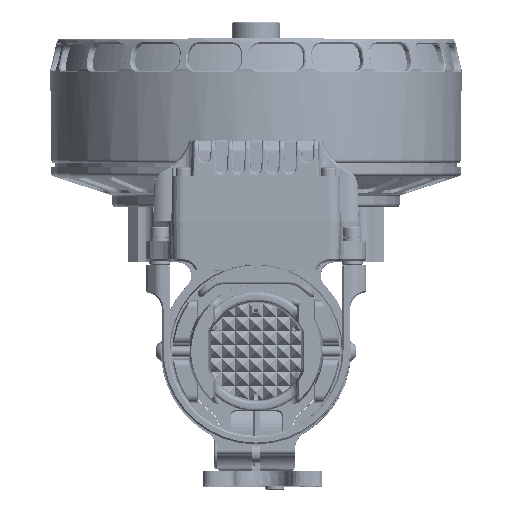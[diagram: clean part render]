
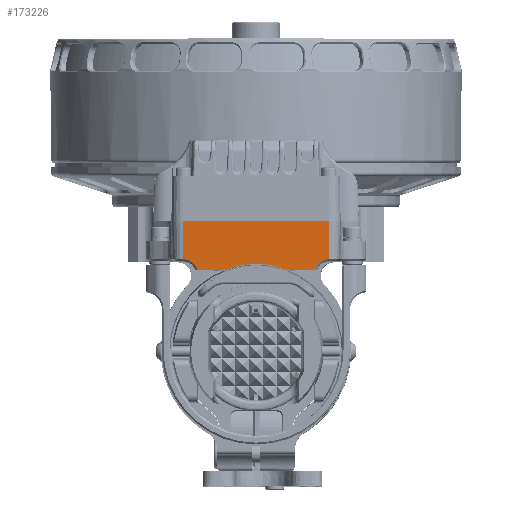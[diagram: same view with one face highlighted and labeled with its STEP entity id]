
A CAD part, top view. The second image highlights one B-rep face of the part: STEP entity #173226.
In plain terms, the highlighted planar face has unit normal (0, -0.035, 0.999).
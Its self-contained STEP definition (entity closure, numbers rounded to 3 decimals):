
#1778 = CARTESIAN_POINT ( 'NONE',  ( -17.607, 24.423, 245.533 ) ) ;
#5577 = EDGE_CURVE ( 'NONE', #460741, #181706, #146914, .T. ) ;
#15553 = AXIS2_PLACEMENT_3D ( 'NONE', #238721, #382266, #188736 ) ;
#17176 = DIRECTION ( 'NONE',  ( -1., 0., 0. ) ) ;
#26457 = CARTESIAN_POINT ( 'NONE',  ( -21.2, 37.8, 246. ) ) ;
#32015 = CARTESIAN_POINT ( 'NONE',  ( 17.144, 23.3, 245.494 ) ) ;
#36391 = LINE ( 'NONE', #26457, #263235 ) ;
#37817 = VERTEX_POINT ( 'NONE', #592867 ) ;
#45150 = B_SPLINE_CURVE_WITH_KNOTS ( 'NONE', 3,
 ( #458083, #61564, #214648, #114679, #361356, #1778, #418003, #321204, #154704 ),
 .UNSPECIFIED., .F., .F.,
 ( 4, 1, 1, 1, 1, 1, 4 ),
 ( 0., 0.001, 0.002, 0.003, 0.004, 0.005, 0.005 ),
 .UNSPECIFIED. ) ;
#58148 = CARTESIAN_POINT ( 'NONE',  ( 18.329, 25.299, 245.563 ) ) ;
#59425 = ORIENTED_EDGE ( 'NONE', *, *, #205562, .T. ) ;
#61564 = CARTESIAN_POINT ( 'NONE',  ( -20.907, 26.476, 245.605 ) ) ;
#87459 = EDGE_CURVE ( 'NONE', #509196, #37817, #375306, .T. ) ;
#114530 = CARTESIAN_POINT ( 'NONE',  ( 17.151, 23.323, 245.494 ) ) ;
#114679 = CARTESIAN_POINT ( 'NONE',  ( -19.253, 25.976, 245.587 ) ) ;
#118972 = ORIENTED_EDGE ( 'NONE', *, *, #314624, .F. ) ;
#120214 = EDGE_CURVE ( 'NONE', #509196, #228766, #370291, .T. ) ;
#122178 = DIRECTION ( 'NONE',  ( 0., -0.999, -0.035 ) ) ;
#146914 = B_SPLINE_CURVE_WITH_KNOTS ( 'NONE', 3,
 ( #157838, #114530, #421136, #471149, #58148, #321058, #464491, #361212, #333429 ),
 .UNSPECIFIED., .F., .F.,
 ( 4, 1, 1, 1, 1, 1, 4 ),
 ( 0., 0., 0.001, 0.002, 0.003, 0.005, 0.005 ),
 .UNSPECIFIED. ) ;
#147980 = VECTOR ( 'NONE', #17176, 1000. ) ;
#154704 = CARTESIAN_POINT ( 'NONE',  ( -17.144, 23.3, 245.494 ) ) ;
#157838 = CARTESIAN_POINT ( 'NONE',  ( 17.144, 23.3, 245.494 ) ) ;
#160199 = CARTESIAN_POINT ( 'NONE',  ( 0., 37.8, 246. ) ) ;
#171194 = LINE ( 'NONE', #577915, #583517 ) ;
#173226 = ADVANCED_FACE ( 'NONE', ( #378919 ), #582232, .T. ) ;
#178033 = CARTESIAN_POINT ( 'NONE',  ( -9.091, 23.3, 245.494 ) ) ;
#178753 = LINE ( 'NONE', #632174, #423102 ) ;
#181706 = VERTEX_POINT ( 'NONE', #330490 ) ;
#182328 = ORIENTED_EDGE ( 'NONE', *, *, #120214, .F. ) ;
#188736 = DIRECTION ( 'NONE',  ( 0., -0.999, -0.035 ) ) ;
#205562 = EDGE_CURVE ( 'NONE', #581064, #356452, #36391, .T. ) ;
#214648 = CARTESIAN_POINT ( 'NONE',  ( -20.241, 26.369, 245.601 ) ) ;
#217361 = EDGE_CURVE ( 'NONE', #356452, #228766, #45150, .T. ) ;
#222620 = VERTEX_POINT ( 'NONE', #283181 ) ;
#228766 = VERTEX_POINT ( 'NONE', #609691 ) ;
#238721 = CARTESIAN_POINT ( 'NONE',  ( -27.577, 37.8, 246. ) ) ;
#263235 = VECTOR ( 'NONE', #442695, 1000. ) ;
#270227 = CARTESIAN_POINT ( 'NONE',  ( -14.937, 23.3, 245.494 ) ) ;
#283181 = CARTESIAN_POINT ( 'NONE',  ( 21.2, 37.8, 246. ) ) ;
#283447 = EDGE_CURVE ( 'NONE', #222620, #181706, #178753, .T. ) ;
#314624 = EDGE_CURVE ( 'NONE', #460741, #37817, #171194, .T. ) ;
#318654 = ORIENTED_EDGE ( 'NONE', *, *, #5577, .T. ) ;
#321058 = CARTESIAN_POINT ( 'NONE',  ( 19.246, 25.972, 245.587 ) ) ;
#321204 = CARTESIAN_POINT ( 'NONE',  ( -17.151, 23.325, 245.495 ) ) ;
#322822 = EDGE_LOOP ( 'NONE', ( #59425, #470015, #182328, #548292, #118972, #318654, #537679, #421860 ) ) ;
#328070 = CARTESIAN_POINT ( 'NONE',  ( -3.209, 25.871, 245.583 ) ) ;
#330490 = CARTESIAN_POINT ( 'NONE',  ( 21.2, 26.492, 245.605 ) ) ;
#333429 = CARTESIAN_POINT ( 'NONE',  ( 21.2, 26.492, 245.605 ) ) ;
#356452 = VERTEX_POINT ( 'NONE', #547947 ) ;
#361212 = CARTESIAN_POINT ( 'NONE',  ( 20.905, 26.476, 245.605 ) ) ;
#361356 = CARTESIAN_POINT ( 'NONE',  ( -18.334, 25.304, 245.564 ) ) ;
#370291 = LINE ( 'NONE', #270227, #147980 ) ;
#375306 =( BOUNDED_CURVE ( )  B_SPLINE_CURVE ( 3, ( #178033, #328070, #424835, #528120 ),
 .UNSPECIFIED., .F., .T. ) 
 B_SPLINE_CURVE_WITH_KNOTS ( ( 4, 4 ),
 ( 5.871, 6.695 ),
 .UNSPECIFIED. ) 
 CURVE ( )  GEOMETRIC_REPRESENTATION_ITEM ( )  RATIONAL_B_SPLINE_CURVE ( ( 1., 0.944, 0.944, 1. ) ) 
 REPRESENTATION_ITEM ( '' )  );
#378919 = FACE_OUTER_BOUND ( 'NONE', #322822, .T. ) ;
#382266 = DIRECTION ( 'NONE',  ( 0., -0.035, 0.999 ) ) ;
#394533 = VECTOR ( 'NONE', #513659, 1000. ) ;
#418003 = CARTESIAN_POINT ( 'NONE',  ( -17.272, 23.71, 245.508 ) ) ;
#421136 = CARTESIAN_POINT ( 'NONE',  ( 17.271, 23.706, 245.508 ) ) ;
#421860 = ORIENTED_EDGE ( 'NONE', *, *, #587896, .T. ) ;
#423102 = VECTOR ( 'NONE', #122178, 1000. ) ;
#424835 = CARTESIAN_POINT ( 'NONE',  ( 3.209, 25.871, 245.583 ) ) ;
#442695 = DIRECTION ( 'NONE',  ( 0., -0.999, -0.035 ) ) ;
#450111 = CARTESIAN_POINT ( 'NONE',  ( -21.2, 37.8, 246. ) ) ;
#458083 = CARTESIAN_POINT ( 'NONE',  ( -21.2, 26.492, 245.605 ) ) ;
#460741 = VERTEX_POINT ( 'NONE', #32015 ) ;
#464491 = CARTESIAN_POINT ( 'NONE',  ( 20.236, 26.368, 245.601 ) ) ;
#470015 = ORIENTED_EDGE ( 'NONE', *, *, #217361, .T. ) ;
#471149 = CARTESIAN_POINT ( 'NONE',  ( 17.604, 24.417, 245.533 ) ) ;
#509196 = VERTEX_POINT ( 'NONE', #563635 ) ;
#513659 = DIRECTION ( 'NONE',  ( -1., 0., 0. ) ) ;
#528120 = CARTESIAN_POINT ( 'NONE',  ( 9.091, 23.3, 245.494 ) ) ;
#537679 = ORIENTED_EDGE ( 'NONE', *, *, #283447, .F. ) ;
#547947 = CARTESIAN_POINT ( 'NONE',  ( -21.2, 26.492, 245.605 ) ) ;
#548292 = ORIENTED_EDGE ( 'NONE', *, *, #87459, .T. ) ;
#563635 = CARTESIAN_POINT ( 'NONE',  ( -9.091, 23.3, 245.494 ) ) ;
#577915 = CARTESIAN_POINT ( 'NONE',  ( 9.091, 23.3, 245.494 ) ) ;
#581064 = VERTEX_POINT ( 'NONE', #450111 ) ;
#581187 = DIRECTION ( 'NONE',  ( -1., 0., 0. ) ) ;
#582232 = PLANE ( 'NONE',  #15553 ) ;
#583517 = VECTOR ( 'NONE', #581187, 1000. ) ;
#587896 = EDGE_CURVE ( 'NONE', #222620, #581064, #623533, .T. ) ;
#592867 = CARTESIAN_POINT ( 'NONE',  ( 9.091, 23.3, 245.494 ) ) ;
#609691 = CARTESIAN_POINT ( 'NONE',  ( -17.144, 23.3, 245.494 ) ) ;
#623533 = LINE ( 'NONE', #160199, #394533 ) ;
#632174 = CARTESIAN_POINT ( 'NONE',  ( 21.2, 37.8, 246. ) ) ;
